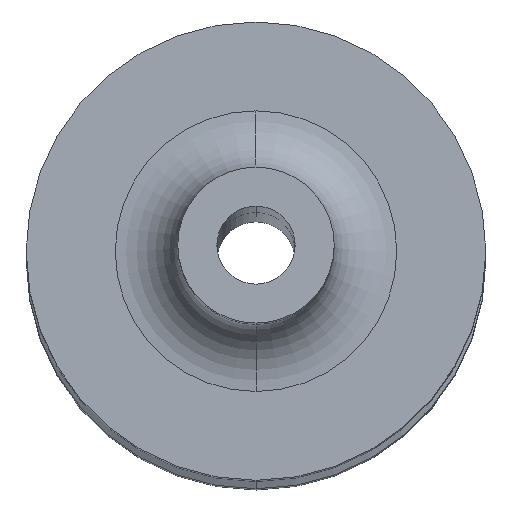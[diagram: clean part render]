
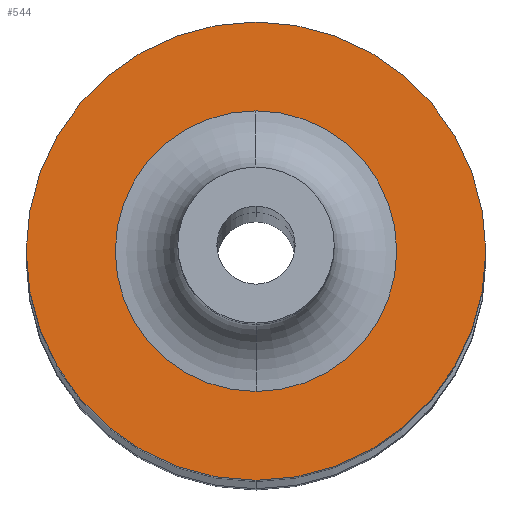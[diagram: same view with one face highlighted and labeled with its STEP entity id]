
A CAD part, left-side view. The second image highlights one B-rep face of the part: STEP entity #544.
In plain terms, the highlighted planar face has unit normal (-0.997, 0, 0.077).
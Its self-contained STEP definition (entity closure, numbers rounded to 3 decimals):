
#177=CARTESIAN_POINT('',(1272.44,0.,89.05));
#178=DIRECTION('',(-0.997,0.,0.077));
#179=DIRECTION('',(-0.077,0.,-0.997));
#180=AXIS2_PLACEMENT_3D('',#177,#178,#179);
#182=CARTESIAN_POINT('',(1272.44,0.,89.05));
#183=DIRECTION('',(0.997,0.,-0.077));
#184=DIRECTION('',(-0.077,0.,-0.997));
#185=AXIS2_PLACEMENT_3D('',#182,#183,#184);
#187=CARTESIAN_POINT('',(1272.44,0.,89.05));
#188=DIRECTION('',(0.997,0.,-0.077));
#189=DIRECTION('',(0.077,0.,0.997));
#190=AXIS2_PLACEMENT_3D('',#187,#188,#189);
#192=CARTESIAN_POINT('',(1272.44,0.,89.05));
#193=DIRECTION('',(0.997,0.,-0.077));
#194=DIRECTION('',(-0.077,0.,-0.997));
#195=AXIS2_PLACEMENT_3D('',#192,#193,#194);
#211=CARTESIAN_POINT('',(1271.304,0.,74.398));
#212=VERTEX_POINT('',#211);
#227=CARTESIAN_POINT('',(1273.576,0.,103.702));
#228=VERTEX_POINT('',#227);
#241=CARTESIAN_POINT('',(1273.136,0.,
98.023));
#242=CARTESIAN_POINT('',(1271.744,0.,
80.077));
#243=VERTEX_POINT('',#241);
#244=VERTEX_POINT('',#242);
#531=CARTESIAN_POINT('',(1272.44,0.,89.05));
#532=DIRECTION('',(-0.997,0.,0.077));
#533=DIRECTION('',(-0.077,0.,-0.997));
#534=AXIS2_PLACEMENT_3D('',#531,#532,#533);
#535=PLANE('',#534);
#536=ORIENTED_EDGE('',*,*,#524,.F.);
#537=ORIENTED_EDGE('',*,*,#513,.T.);
#538=EDGE_LOOP('',(#536,#537));
#539=FACE_OUTER_BOUND('',#538,.F.);
#540=ORIENTED_EDGE('',*,*,#269,.F.);
#541=ORIENTED_EDGE('',*,*,#284,.F.);
#542=EDGE_LOOP('',(#540,#541));
#543=FACE_BOUND('',#542,.F.);
#544=ADVANCED_FACE('',(#539,#543),#535,.T.);
#181=CIRCLE('',#180,14.696);
#186=CIRCLE('',#185,14.696);
#191=CIRCLE('',#190,9.);
#196=CIRCLE('',#195,9.);
#269=EDGE_CURVE('',#243,#244,#191,.T.);
#284=EDGE_CURVE('',#244,#243,#196,.T.);
#513=EDGE_CURVE('',#212,#228,#186,.T.);
#524=EDGE_CURVE('',#212,#228,#181,.T.);
